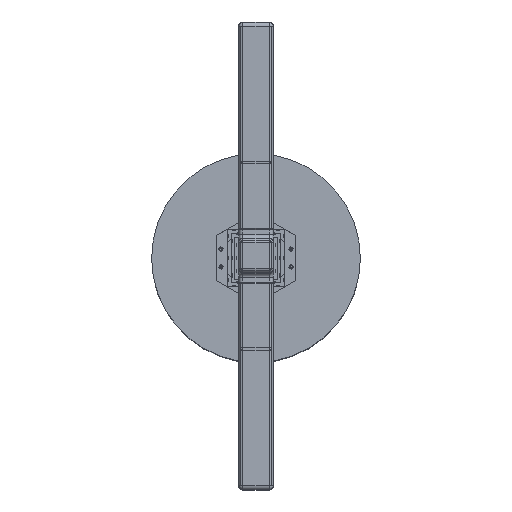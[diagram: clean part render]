
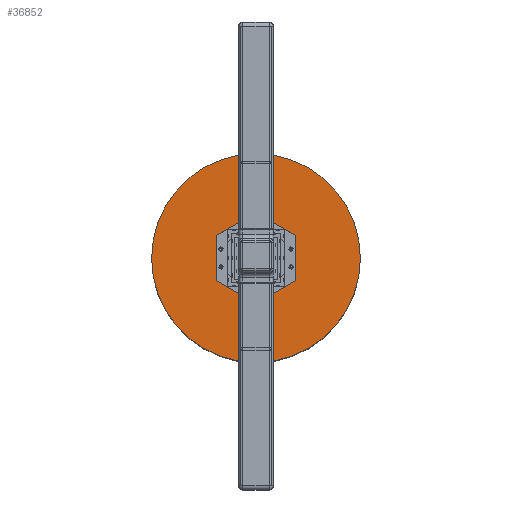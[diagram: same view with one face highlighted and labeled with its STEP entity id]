
A CAD part, top view. The second image highlights one B-rep face of the part: STEP entity #36852.
In plain terms, the highlighted planar face has unit normal (0, 0, 1).
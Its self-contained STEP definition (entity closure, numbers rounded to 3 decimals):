
#591 = VERTEX_POINT ( 'NONE', #44080 ) ;
#1164 = EDGE_CURVE ( 'NONE', #29790, #13445, #12106, .T. ) ;
#1669 = ORIENTED_EDGE ( 'NONE', *, *, #34156, .F. ) ;
#1907 = DIRECTION ( 'NONE',  ( 0., 0., 1. ) ) ;
#2164 = LINE ( 'NONE', #45413, #44569 ) ;
#2709 = ORIENTED_EDGE ( 'NONE', *, *, #37793, .F. ) ;
#3281 = DIRECTION ( 'NONE',  ( 1., 0., 0. ) ) ;
#3812 = DIRECTION ( 'NONE',  ( 0., 1., 0. ) ) ;
#4277 = VECTOR ( 'NONE', #3812, 1000. ) ;
#5613 = DIRECTION ( 'NONE',  ( 0., 0., 1. ) ) ;
#5731 = DIRECTION ( 'NONE',  ( 0., 0., 1. ) ) ;
#6179 = CARTESIAN_POINT ( 'NONE',  ( 76.2, 76.2, 0. ) ) ;
#6412 = DIRECTION ( 'NONE',  ( 0., 0., 1. ) ) ;
#7419 = LINE ( 'NONE', #44854, #4277 ) ;
#8241 = DIRECTION ( 'NONE',  ( 0., 0., 1. ) ) ;
#8465 = VECTOR ( 'NONE', #47013, 1000. ) ;
#9008 = ORIENTED_EDGE ( 'NONE', *, *, #43243, .F. ) ;
#9526 = CARTESIAN_POINT ( 'NONE',  ( -101.6, 0., 0. ) ) ;
#9571 = AXIS2_PLACEMENT_3D ( 'NONE', #46467, #24688, #12857 ) ;
#9777 = LINE ( 'NONE', #9526, #8465 ) ;
#10492 = DIRECTION ( 'NONE',  ( 0., 0., 1. ) ) ;
#11346 = AXIS2_PLACEMENT_3D ( 'NONE', #45210, #8241, #11830 ) ;
#11496 = EDGE_LOOP ( 'NONE', ( #18987, #39578 ) ) ;
#11790 = ORIENTED_EDGE ( 'NONE', *, *, #1164, .F. ) ;
#11830 = DIRECTION ( 'NONE',  ( 1., 0., 0. ) ) ;
#12106 = CIRCLE ( 'NONE', #11346, 25.4 ) ;
#12209 = EDGE_LOOP ( 'NONE', ( #1669, #12827, #23860, #36165, #9008, #11790, #43946, #2709 ) ) ;
#12269 = CARTESIAN_POINT ( 'NONE',  ( 0., 0., 0. ) ) ;
#12271 = DIRECTION ( 'NONE',  ( 1., 0., 0. ) ) ;
#12600 = CARTESIAN_POINT ( 'NONE',  ( -101.6, 76.2, 0. ) ) ;
#12641 = CIRCLE ( 'NONE', #9571, 25.4 ) ;
#12827 = ORIENTED_EDGE ( 'NONE', *, *, #24067, .F. ) ;
#12857 = DIRECTION ( 'NONE',  ( 1., 0., 0. ) ) ;
#13320 = CARTESIAN_POINT ( 'NONE',  ( 0., 0., 0. ) ) ;
#13445 = VERTEX_POINT ( 'NONE', #24747 ) ;
#13616 = CARTESIAN_POINT ( 'NONE',  ( 0., -101.6, 0. ) ) ;
#13674 = EDGE_CURVE ( 'NONE', #25616, #591, #33102, .T. ) ;
#14862 = CIRCLE ( 'NONE', #20246, 25.4 ) ;
#15926 = EDGE_CURVE ( 'NONE', #27563, #38698, #2164, .T. ) ;
#16233 = FACE_OUTER_BOUND ( 'NONE', #11496, .T. ) ;
#16828 = AXIS2_PLACEMENT_3D ( 'NONE', #43608, #10492, #29333 ) ;
#17192 = DIRECTION ( 'NONE',  ( 1., 0., 0. ) ) ;
#17522 = CARTESIAN_POINT ( 'NONE',  ( 76.2, -101.6, 0. ) ) ;
#17801 = CARTESIAN_POINT ( 'NONE',  ( -76.2, 101.6, 0. ) ) ;
#18987 = ORIENTED_EDGE ( 'NONE', *, *, #13674, .T. ) ;
#19615 = CIRCLE ( 'NONE', #37368, 609.6 ) ;
#20246 = AXIS2_PLACEMENT_3D ( 'NONE', #24074, #5731, #42691 ) ;
#20690 = VERTEX_POINT ( 'NONE', #22018 ) ;
#21408 = EDGE_CURVE ( 'NONE', #21695, #38698, #31122, .T. ) ;
#21695 = VERTEX_POINT ( 'NONE', #27604 ) ;
#22018 = CARTESIAN_POINT ( 'NONE',  ( -101.6, -76.2, 0. ) ) ;
#22493 = EDGE_CURVE ( 'NONE', #591, #25616, #19615, .T. ) ;
#23860 = ORIENTED_EDGE ( 'NONE', *, *, #15926, .T. ) ;
#24067 = EDGE_CURVE ( 'NONE', #27563, #36925, #12641, .T. ) ;
#24074 = CARTESIAN_POINT ( 'NONE',  ( -76.2, -76.2, 0. ) ) ;
#24193 = PLANE ( 'NONE',  #37929 ) ;
#24237 = LINE ( 'NONE', #13616, #31735 ) ;
#24688 = DIRECTION ( 'NONE',  ( 0., 0., 1. ) ) ;
#24747 = CARTESIAN_POINT ( 'NONE',  ( 101.6, -76.2, 0. ) ) ;
#25107 = CARTESIAN_POINT ( 'NONE',  ( -76.2, -101.6, 0. ) ) ;
#25616 = VERTEX_POINT ( 'NONE', #39873 ) ;
#27563 = VERTEX_POINT ( 'NONE', #17801 ) ;
#27604 = CARTESIAN_POINT ( 'NONE',  ( 101.6, 76.2, 0. ) ) ;
#29333 = DIRECTION ( 'NONE',  ( 1., 0., 0. ) ) ;
#29790 = VERTEX_POINT ( 'NONE', #17522 ) ;
#31122 = CIRCLE ( 'NONE', #36535, 25.4 ) ;
#31735 = VECTOR ( 'NONE', #31969, 1000. ) ;
#31969 = DIRECTION ( 'NONE',  ( -1., 0., 0. ) ) ;
#33102 = CIRCLE ( 'NONE', #16828, 609.6 ) ;
#34156 = EDGE_CURVE ( 'NONE', #36925, #20690, #9777, .T. ) ;
#36165 = ORIENTED_EDGE ( 'NONE', *, *, #21408, .F. ) ;
#36535 = AXIS2_PLACEMENT_3D ( 'NONE', #6179, #6412, #3281 ) ;
#36852 = ADVANCED_FACE ( 'NONE', ( #38688, #16233 ), #24193, .T. ) ;
#36925 = VERTEX_POINT ( 'NONE', #12600 ) ;
#37368 = AXIS2_PLACEMENT_3D ( 'NONE', #12269, #1907, #38111 ) ;
#37445 = VERTEX_POINT ( 'NONE', #25107 ) ;
#37540 = CARTESIAN_POINT ( 'NONE',  ( 76.2, 101.6, 0. ) ) ;
#37793 = EDGE_CURVE ( 'NONE', #20690, #37445, #14862, .T. ) ;
#37929 = AXIS2_PLACEMENT_3D ( 'NONE', #13320, #5613, #17192 ) ;
#38111 = DIRECTION ( 'NONE',  ( 1., 0., 0. ) ) ;
#38688 = FACE_BOUND ( 'NONE', #12209, .T. ) ;
#38698 = VERTEX_POINT ( 'NONE', #37540 ) ;
#39578 = ORIENTED_EDGE ( 'NONE', *, *, #22493, .T. ) ;
#39602 = EDGE_CURVE ( 'NONE', #29790, #37445, #24237, .T. ) ;
#39873 = CARTESIAN_POINT ( 'NONE',  ( 609.6, 0., 0. ) ) ;
#42691 = DIRECTION ( 'NONE',  ( 1., 0., 0. ) ) ;
#43243 = EDGE_CURVE ( 'NONE', #13445, #21695, #7419, .T. ) ;
#43608 = CARTESIAN_POINT ( 'NONE',  ( 0., 0., 0. ) ) ;
#43946 = ORIENTED_EDGE ( 'NONE', *, *, #39602, .T. ) ;
#44080 = CARTESIAN_POINT ( 'NONE',  ( -609.6, 0., 0. ) ) ;
#44569 = VECTOR ( 'NONE', #12271, 1000. ) ;
#44854 = CARTESIAN_POINT ( 'NONE',  ( 101.6, 0., 0. ) ) ;
#45210 = CARTESIAN_POINT ( 'NONE',  ( 76.2, -76.2, 0. ) ) ;
#45413 = CARTESIAN_POINT ( 'NONE',  ( 0., 101.6, 0. ) ) ;
#46467 = CARTESIAN_POINT ( 'NONE',  ( -76.2, 76.2, 0. ) ) ;
#47013 = DIRECTION ( 'NONE',  ( 0., -1., 0. ) ) ;
